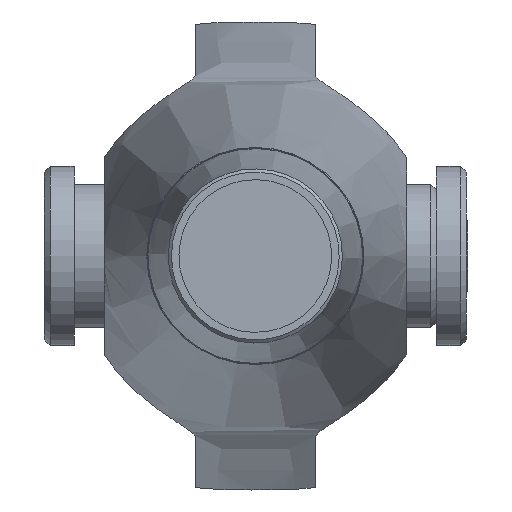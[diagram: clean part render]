
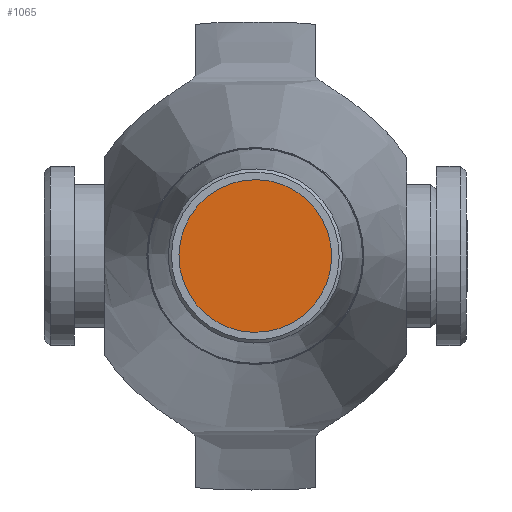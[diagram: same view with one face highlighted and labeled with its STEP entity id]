
A CAD part, left-side view. The second image highlights one B-rep face of the part: STEP entity #1065.
In plain terms, the highlighted planar face has unit normal (-1, 0, 0).
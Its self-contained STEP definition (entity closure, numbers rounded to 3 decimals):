
#77=PLANE('',#1163);
#109=FACE_OUTER_BOUND('',#173,.T.);
#173=EDGE_LOOP('',(#704,#705));
#361=CIRCLE('',#1161,12.75);
#362=CIRCLE('',#1162,12.75);
#431=VERTEX_POINT('',#1631);
#432=VERTEX_POINT('',#1633);
#540=EDGE_CURVE('',#432,#431,#361,.T.);
#541=EDGE_CURVE('',#431,#432,#362,.T.);
#704=ORIENTED_EDGE('',*,*,#540,.T.);
#705=ORIENTED_EDGE('',*,*,#541,.T.);
#1065=ADVANCED_FACE('',(#109),#77,.T.);
#1161=AXIS2_PLACEMENT_3D('',#1634,#1314,#1315);
#1162=AXIS2_PLACEMENT_3D('',#1635,#1316,#1317);
#1163=AXIS2_PLACEMENT_3D('',#1636,#1318,#1319);
#1314=DIRECTION('center_axis',(-1.,0.,0.));
#1315=DIRECTION('ref_axis',(0.,0.857,0.516));
#1316=DIRECTION('center_axis',(-1.,0.,0.));
#1317=DIRECTION('ref_axis',(0.,0.857,0.516));
#1318=DIRECTION('center_axis',(-1.,0.,0.));
#1319=DIRECTION('ref_axis',(0.,0.857,0.516));
#1631=CARTESIAN_POINT('',(-273.,6.579,-10.922));
#1633=CARTESIAN_POINT('',(-273.,-6.579,10.922));
#1634=CARTESIAN_POINT('Origin',(-273.,0.,
0.));
#1635=CARTESIAN_POINT('Origin',(-273.,0.,
0.));
#1636=CARTESIAN_POINT('Origin',(-273.,0.,
0.));
